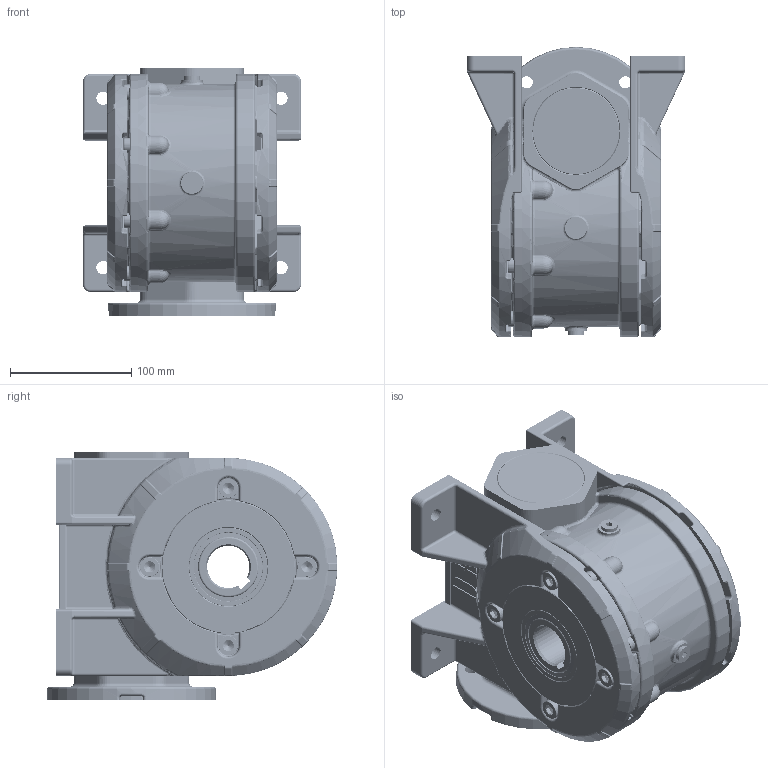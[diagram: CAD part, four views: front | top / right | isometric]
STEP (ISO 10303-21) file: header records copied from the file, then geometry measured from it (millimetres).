
FILE_DESCRIPTION (( 'STEP AP214' ), '1' );
FILE_NAME ('Sestava MRT80A-B.STEP', '2007-03-28T12:04:24', ( '' ), ( '' ), 'SwSTEP 2.0', 'SolidWorks 2004146', '' );
FILE_SCHEMA (( 'AUTOMOTIVE_DESIGN' ));
Length unit declared in the file: millimetre
Products named in the file (18): skrin80BZ_Výchozí; NBRvíèko72_Výchozí; N024720_Ložisko SKF 30207 ÈSN 024720; Snek_80_Výchozí; N024720_Ložisko SKF 30306 ÈSN 024720; Circlip for Bores normal_din_Circlip DIN 472 - 72 x 2.5; ZatkaM10x1DIN908_M10x1; n029401b_Tìsnìní IS0 6194-1 35x55x8 Typ 4; pøíruba115-80_Výchozí; priruba80FT_Výchozí; SNEK_KOLO80_Výchozí; Radial Ball Bearing_68_DIN_DIN 625 - 6010 - 18,DE,NC,18_68; Adaptér patky 80_Výchozí; n029401b_Tìsnìní AS 50x65x8 DIN 3760-NB; D6912_Šroub DIN 6912 - M8x20; D6912_Šroub DIN 6912 - M10x20; D6912_Šroub DIN 6912 - M6x20; Sestava MRT80A-B
Assembly tree (40 placements, depth 2):
  Sestava MRT80A-B
    NBRvíèko72_Výchozí
    D6912_Šroub DIN 6912 - M8x20  x8
    n029401b_Tìsnìní AS 50x65x8 DIN 3760-NB  x2
    priruba80FT_Výchozí
    skrin80BZ_Výchozí
    D6912_Šroub DIN 6912 - M10x20  x8
    D6912_Šroub DIN 6912 - M6x20  x6
    ZatkaM10x1DIN908_M10x1  x2
    Adaptér patky 80_Výchozí  x2
    Circlip for Bores normal_din_Circlip DIN 472 - 72 x 2.5
    Radial Ball Bearing_68_DIN_DIN 625 - 6010 - 18,DE,NC,18_68  x2
    n029401b_Tìsnìní IS0 6194-1 35x55x8 Typ 4
    Snek_80_Výchozí
    SNEK_KOLO80_Výchozí
    pøíruba115-80_Výchozí
    N024720_Ložisko SKF 30306 ÈSN 024720
    N024720_Ložisko SKF 30207 ÈSN 024720
Bounding box: 180 x 240 x 205 mm (x, y, z)
Volume: 2869101.3 mm3; surface area: 770479 mm2
Topology: 40 solids, 40 shells, 5225 faces, 12780 edges, 7343 vertices
Faces by surface type: cylinder 1339, torus 1139, plane 1007, bspline 889, cone 615, sphere 236
Entity records: 369922 total; most frequent: CARTESIAN_POINT 289387, ORIENTED_EDGE 17118, DIRECTION 16780, EDGE_CURVE 8559, AXIS2_PLACEMENT_3D 7412, VERTEX_POINT 5089, CIRCLE 4480, EDGE_LOOP 3724
